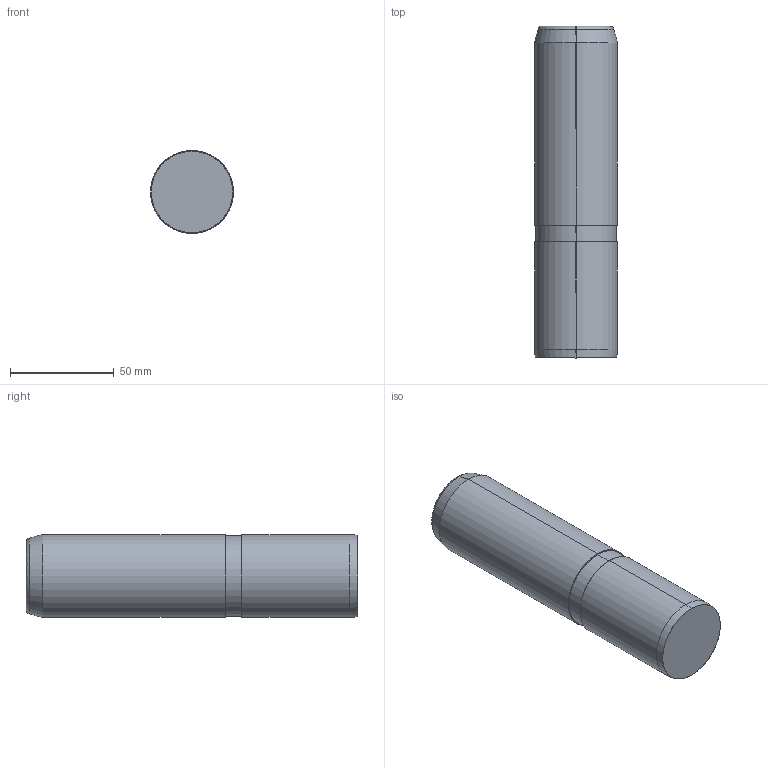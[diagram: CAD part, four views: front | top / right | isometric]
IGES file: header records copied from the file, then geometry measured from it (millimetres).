
Start section: SolidWorks IGES file using analytic representation for surfaces
Global section: file name: C:\Users\Dell\Desktop\deltakont\hatalýlar\D13.02\Ø40\D13.02_40160.igs; native system: SolidWorks 2010; preprocessor: SolidWorks 2010; author: Dell; date: 111225.192159; units: millimetre
Bounding box: 40 x 160 x 40 mm (x, y, z)
Surface area: 22345.3 mm2 (no closed solid volume)
Topology: 0 solids, 0 shells, 16 faces, 420 edges, 420 vertices
Faces by surface type: revolution 10, bspline 6
